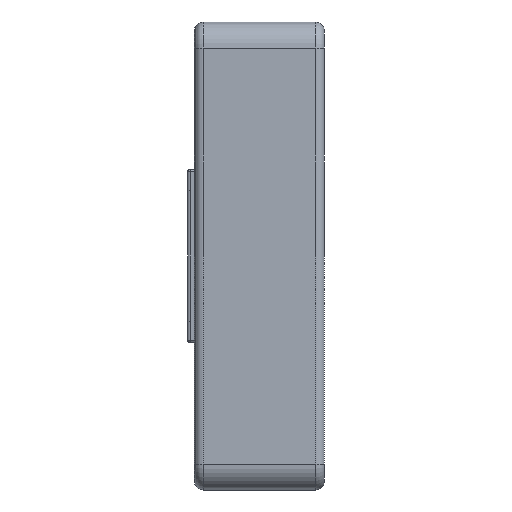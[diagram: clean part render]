
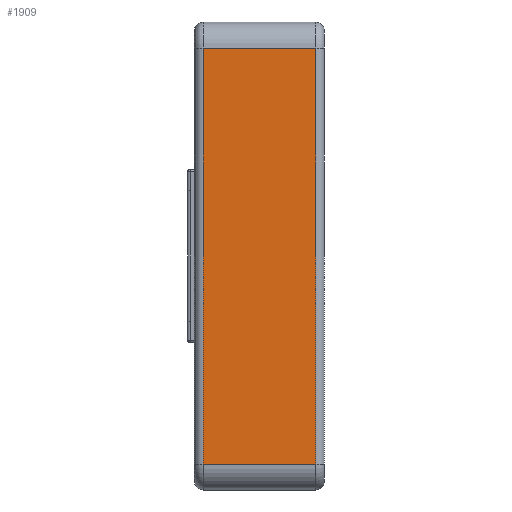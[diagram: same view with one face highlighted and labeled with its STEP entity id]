
A CAD part, left-side view. The second image highlights one B-rep face of the part: STEP entity #1909.
In plain terms, the highlighted planar face has unit normal (-1, 0, 0).
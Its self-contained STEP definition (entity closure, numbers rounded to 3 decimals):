
#1788 = EDGE_LOOP ( 'NONE', ( #2408, #2412, #2414, #2415 ) ) ;
#1899 = EDGE_CURVE ( 'NONE', #1900, #1906, #4816, .T. ) ;
#1900 = VERTEX_POINT ( 'NONE', #4812 ) ;
#1906 = VERTEX_POINT ( 'NONE', #4801 ) ;
#1909 = ADVANCED_FACE ( 'NONE', ( #4800 ), #4794, .T. ) ;
#2408 = ORIENTED_EDGE ( 'NONE', *, *, #2409, .F. ) ;
#2409 = EDGE_CURVE ( 'NONE', #2410, #2411, #5659, .T. ) ;
#2410 = VERTEX_POINT ( 'NONE', #5655 ) ;
#2411 = VERTEX_POINT ( 'NONE', #5654 ) ;
#2412 = ORIENTED_EDGE ( 'NONE', *, *, #2413, .T. ) ;
#2413 = EDGE_CURVE ( 'NONE', #2410, #1900, #5653, .T. ) ;
#2414 = ORIENTED_EDGE ( 'NONE', *, *, #1899, .T. ) ;
#2415 = ORIENTED_EDGE ( 'NONE', *, *, #2416, .T. ) ;
#2416 = EDGE_CURVE ( 'NONE', #1906, #2411, #5649, .T. ) ;
#4790 = DIRECTION ( 'NONE',  ( 0., 0., 1. ) ) ;
#4791 = DIRECTION ( 'NONE',  ( -1., 0., 0. ) ) ;
#4792 = CARTESIAN_POINT ( 'NONE',  ( -62., -14., -24. ) ) ;
#4793 = AXIS2_PLACEMENT_3D ( 'NONE', #4792, #4791, #4790 ) ;
#4794 = PLANE ( 'NONE',  #4793 ) ;
#4800 = FACE_OUTER_BOUND ( 'NONE', #1788, .T. ) ;
#4801 = CARTESIAN_POINT ( 'NONE',  ( -62., 0., 24. ) ) ;
#4812 = CARTESIAN_POINT ( 'NONE',  ( -62., -13., 24. ) ) ;
#4813 = DIRECTION ( 'NONE',  ( 0., 1., 0. ) ) ;
#4814 = VECTOR ( 'NONE', #4813, 1000. ) ;
#4815 = CARTESIAN_POINT ( 'NONE',  ( -62., -14., 24. ) ) ;
#4816 = LINE ( 'NONE', #4815, #4814 ) ;
#5646 = DIRECTION ( 'NONE',  ( 0., 0., -1. ) ) ;
#5647 = VECTOR ( 'NONE', #5646, 1000. ) ;
#5648 = CARTESIAN_POINT ( 'NONE',  ( -62., 0., -24. ) ) ;
#5649 = LINE ( 'NONE', #5648, #5647 ) ;
#5650 = DIRECTION ( 'NONE',  ( 0., 0., 1. ) ) ;
#5651 = VECTOR ( 'NONE', #5650, 1000. ) ;
#5652 = CARTESIAN_POINT ( 'NONE',  ( -62., -13., 24. ) ) ;
#5653 = LINE ( 'NONE', #5652, #5651 ) ;
#5654 = CARTESIAN_POINT ( 'NONE',  ( -62., 0., -24. ) ) ;
#5655 = CARTESIAN_POINT ( 'NONE',  ( -62., -13., -24. ) ) ;
#5656 = DIRECTION ( 'NONE',  ( 0., 1., 0. ) ) ;
#5657 = VECTOR ( 'NONE', #5656, 1000. ) ;
#5658 = CARTESIAN_POINT ( 'NONE',  ( -62., -14., -24. ) ) ;
#5659 = LINE ( 'NONE', #5658, #5657 ) ;
